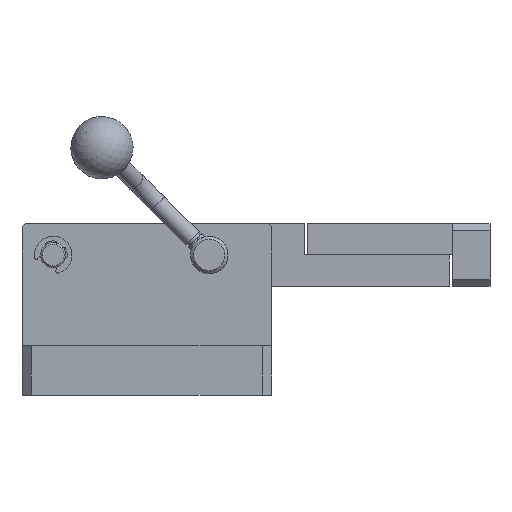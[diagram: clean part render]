
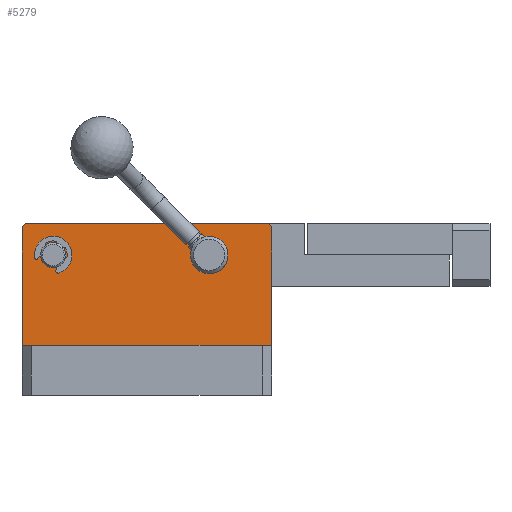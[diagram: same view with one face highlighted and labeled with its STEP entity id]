
A CAD part, front view. The second image highlights one B-rep face of the part: STEP entity #5279.
In plain terms, the highlighted planar face has unit normal (0, -1, 0).
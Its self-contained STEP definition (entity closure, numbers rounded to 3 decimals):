
#4671=FACE_BOUND('',#6775,.T.);
#4672=FACE_BOUND('',#6776,.T.);
#4673=FACE_BOUND('',#6777,.T.);
#5279=ADVANCED_FACE('',(#4671,#4672,#4673),#5632,.F.);
#5632=PLANE('',#13930);
#6775=EDGE_LOOP('',(#9343));
#6776=EDGE_LOOP('',(#9344));
#6777=EDGE_LOOP('',(#9345,#9346,#9347,#9348,#9349,#9350));
#7386=CIRCLE('',#13928,4.);
#7387=CIRCLE('',#13929,6.);
#9343=ORIENTED_EDGE('',*,*,#11706,.T.);
#9344=ORIENTED_EDGE('',*,*,#11707,.T.);
#9345=ORIENTED_EDGE('',*,*,#11653,.F.);
#9346=ORIENTED_EDGE('',*,*,#11704,.F.);
#9347=ORIENTED_EDGE('',*,*,#11708,.T.);
#9348=ORIENTED_EDGE('',*,*,#11709,.T.);
#9349=ORIENTED_EDGE('',*,*,#11674,.F.);
#9350=ORIENTED_EDGE('',*,*,#11710,.T.);
#10539=VERTEX_POINT('',#20134);
#10540=VERTEX_POINT('',#20136);
#10558=VERTEX_POINT('',#20177);
#10559=VERTEX_POINT('',#20179);
#10583=VERTEX_POINT('',#20237);
#10584=VERTEX_POINT('',#20242);
#10585=VERTEX_POINT('',#20244);
#10586=VERTEX_POINT('',#20246);
#11653=EDGE_CURVE('',#10539,#10540,#12362,.T.);
#11674=EDGE_CURVE('',#10558,#10559,#12377,.T.);
#11704=EDGE_CURVE('',#10583,#10539,#12398,.T.);
#11706=EDGE_CURVE('',#10584,#10584,#7386,.T.);
#11707=EDGE_CURVE('',#10585,#10585,#7387,.T.);
#11708=EDGE_CURVE('',#10583,#10586,#12400,.T.);
#11709=EDGE_CURVE('',#10586,#10559,#12401,.T.);
#11710=EDGE_CURVE('',#10558,#10540,#12402,.T.);
#12362=LINE('',#20135,#12926);
#12377=LINE('',#20178,#12941);
#12398=LINE('',#20238,#12962);
#12400=LINE('',#20245,#12964);
#12401=LINE('',#20247,#12965);
#12402=LINE('',#20248,#12966);
#12926=VECTOR('',#16265,1.);
#12941=VECTOR('',#16298,1.);
#12962=VECTOR('',#16347,1.);
#12964=VECTOR('',#16355,1.);
#12965=VECTOR('',#16356,1.);
#12966=VECTOR('',#16357,1.);
#13928=AXIS2_PLACEMENT_3D('',#20241,#16351,#16352);
#13929=AXIS2_PLACEMENT_3D('',#20243,#16353,#16354);
#13930=AXIS2_PLACEMENT_3D('',#20249,#16358,#16359);
#16265=DIRECTION('',(0.,0.,1.));
#16298=DIRECTION('',(1.,0.,0.));
#16347=DIRECTION('',(-1.,0.,0.));
#16351=DIRECTION('',(0.,1.,0.));
#16352=DIRECTION('',(0.,0.,1.));
#16353=DIRECTION('',(0.,1.,0.));
#16354=DIRECTION('',(0.,0.,1.));
#16355=DIRECTION('',(0.,0.,1.));
#16356=DIRECTION('',(-0.707,0.,0.707));
#16357=DIRECTION('',(-0.707,0.,-0.707));
#16358=DIRECTION('',(0.,1.,0.));
#16359=DIRECTION('',(0.,0.,1.));
#20134=CARTESIAN_POINT('',(0.,-173.,16.));
#20135=CARTESIAN_POINT('',(0.,-173.,16.));
#20136=CARTESIAN_POINT('',(0.,-173.,54.));
#20177=CARTESIAN_POINT('',(1.,-173.,55.));
#20178=CARTESIAN_POINT('',(80.,-173.,55.));
#20179=CARTESIAN_POINT('',(79.,-173.,55.));
#20237=CARTESIAN_POINT('',(80.,-173.,16.));
#20238=CARTESIAN_POINT('',(80.,-173.,16.));
#20241=CARTESIAN_POINT('',(10.,-173.,45.));
#20242=CARTESIAN_POINT('',(10.,-173.,49.));
#20243=CARTESIAN_POINT('',(60.,-173.,45.));
#20244=CARTESIAN_POINT('',(60.,-173.,51.));
#20245=CARTESIAN_POINT('',(80.,-173.,16.));
#20246=CARTESIAN_POINT('',(80.,-173.,54.));
#20247=CARTESIAN_POINT('',(80.,-173.,54.));
#20248=CARTESIAN_POINT('',(0.,-173.,54.));
#20249=CARTESIAN_POINT('',(0.,-173.,55.));
